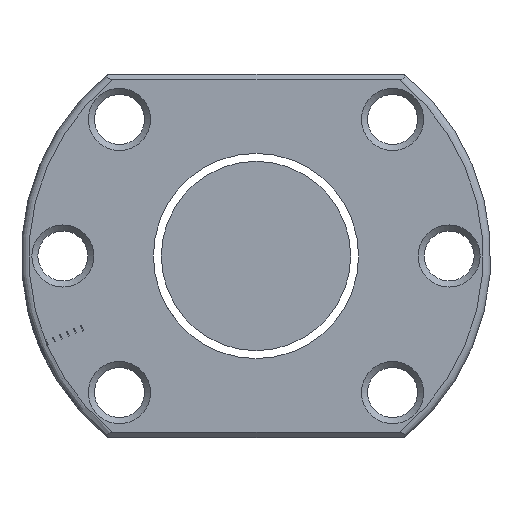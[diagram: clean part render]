
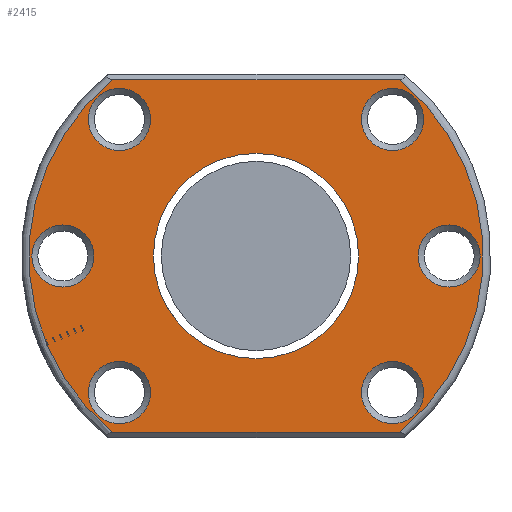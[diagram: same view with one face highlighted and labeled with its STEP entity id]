
A CAD part, left-side view. The second image highlights one B-rep face of the part: STEP entity #2415.
In plain terms, the highlighted planar face has unit normal (-1, 0, 0).
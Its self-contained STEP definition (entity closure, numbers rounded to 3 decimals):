
#40 = FACE_BOUND ( 'NONE', #677, .T. ) ;
#88 = AXIS2_PLACEMENT_3D ( 'NONE', #1712, #2687, #2938 ) ;
#121 = CARTESIAN_POINT ( 'NONE',  ( -51., -22.131, 18.031 ) ) ;
#135 = CARTESIAN_POINT ( 'NONE',  ( -51., 13.931, -18.031 ) ) ;
#208 = VERTEX_POINT ( 'NONE', #2408 ) ;
#215 = CARTESIAN_POINT ( 'NONE',  ( -51., 31., 0. ) ) ;
#232 = LINE ( 'NONE', #1650, #1246 ) ;
#241 = DIRECTION ( 'NONE',  ( 0., -1., 0. ) ) ;
#294 = CIRCLE ( 'NONE', #1444, 4.1 ) ;
#343 = CARTESIAN_POINT ( 'NONE',  ( -51., 25.5, 0. ) ) ;
#345 = VECTOR ( 'NONE', #2680, 1000. ) ;
#388 = ORIENTED_EDGE ( 'NONE', *, *, #749, .T. ) ;
#401 = CARTESIAN_POINT ( 'NONE',  ( -51., -18.031, 18.031 ) ) ;
#406 = EDGE_LOOP ( 'NONE', ( #1534 ) ) ;
#411 = CARTESIAN_POINT ( 'NONE',  ( -51., -22.131, -18.031 ) ) ;
#450 = VERTEX_POINT ( 'NONE', #1381 ) ;
#468 = VERTEX_POINT ( 'NONE', #700 ) ;
#510 = LINE ( 'NONE', #2444, #345 ) ;
#523 = ORIENTED_EDGE ( 'NONE', *, *, #2961, .T. ) ;
#535 = EDGE_CURVE ( 'NONE', #1097, #1097, #2613, .T. ) ;
#574 = CARTESIAN_POINT ( 'NONE',  ( -51., -25.5, 0. ) ) ;
#608 = VERTEX_POINT ( 'NONE', #1570 ) ;
#627 = DIRECTION ( 'NONE',  ( 1., 0., 0. ) ) ;
#632 = ORIENTED_EDGE ( 'NONE', *, *, #535, .T. ) ;
#633 = CIRCLE ( 'NONE', #2411, 4.1 ) ;
#677 = EDGE_LOOP ( 'NONE', ( #2348 ) ) ;
#679 = EDGE_LOOP ( 'NONE', ( #388 ) ) ;
#700 = CARTESIAN_POINT ( 'NONE',  ( -51., 13.55, 0. ) ) ;
#727 = ORIENTED_EDGE ( 'NONE', *, *, #1467, .T. ) ;
#749 = EDGE_CURVE ( 'NONE', #2305, #2305, #633, .T. ) ;
#781 = CARTESIAN_POINT ( 'NONE',  ( -51., 18.031, -18.031 ) ) ;
#806 = DIRECTION ( 'NONE',  ( 0., 1., 0. ) ) ;
#885 = CIRCLE ( 'NONE', #1957, 4.1 ) ;
#891 = CIRCLE ( 'NONE', #1451, 13.55 ) ;
#1017 = DIRECTION ( 'NONE',  ( 1., 0., 0. ) ) ;
#1045 = DIRECTION ( 'NONE',  ( 1., 0., 0. ) ) ;
#1074 = DIRECTION ( 'NONE',  ( 0., -1., 0. ) ) ;
#1088 = DIRECTION ( 'NONE',  ( 1., 0., 0. ) ) ;
#1093 = AXIS2_PLACEMENT_3D ( 'NONE', #343, #1563, #2016 ) ;
#1097 = VERTEX_POINT ( 'NONE', #1861 ) ;
#1107 = EDGE_LOOP ( 'NONE', ( #523 ) ) ;
#1151 = EDGE_LOOP ( 'NONE', ( #1243 ) ) ;
#1204 = FACE_BOUND ( 'NONE', #1151, .T. ) ;
#1219 = FACE_BOUND ( 'NONE', #1107, .T. ) ;
#1243 = ORIENTED_EDGE ( 'NONE', *, *, #2979, .T. ) ;
#1246 = VECTOR ( 'NONE', #2212, 1000. ) ;
#1251 = CARTESIAN_POINT ( 'NONE',  ( -51., -18.897, 23.3 ) ) ;
#1381 = CARTESIAN_POINT ( 'NONE',  ( -51., 18.897, 23.3 ) ) ;
#1399 = EDGE_CURVE ( 'NONE', #2353, #2353, #294, .T. ) ;
#1428 = FACE_BOUND ( 'NONE', #2108, .T. ) ;
#1434 = CARTESIAN_POINT ( 'NONE',  ( -51., -18.031, -18.031 ) ) ;
#1444 = AXIS2_PLACEMENT_3D ( 'NONE', #1434, #2409, #241 ) ;
#1448 = CIRCLE ( 'NONE', #88, 30. ) ;
#1451 = AXIS2_PLACEMENT_3D ( 'NONE', #1760, #1045, #806 ) ;
#1457 = VERTEX_POINT ( 'NONE', #2683 ) ;
#1467 = EDGE_CURVE ( 'NONE', #1887, #450, #510, .T. ) ;
#1480 = DIRECTION ( 'NONE',  ( -1., 0., 0. ) ) ;
#1503 = AXIS2_PLACEMENT_3D ( 'NONE', #574, #1088, #1806 ) ;
#1534 = ORIENTED_EDGE ( 'NONE', *, *, #3077, .T. ) ;
#1563 = DIRECTION ( 'NONE',  ( 1., 0., 0. ) ) ;
#1570 = CARTESIAN_POINT ( 'NONE',  ( -51., 21.4, 0. ) ) ;
#1634 = DIRECTION ( 'NONE',  ( 0., -1., 0. ) ) ;
#1650 = CARTESIAN_POINT ( 'NONE',  ( -51., -19.621, -23.3 ) ) ;
#1712 = CARTESIAN_POINT ( 'NONE',  ( -51., 0., 0. ) ) ;
#1723 = ORIENTED_EDGE ( 'NONE', *, *, #2881, .T. ) ;
#1756 = CIRCLE ( 'NONE', #1093, 4.1 ) ;
#1760 = CARTESIAN_POINT ( 'NONE',  ( -51., 0., 0. ) ) ;
#1806 = DIRECTION ( 'NONE',  ( 0., -1., 0. ) ) ;
#1821 = ORIENTED_EDGE ( 'NONE', *, *, #2443, .T. ) ;
#1822 = ORIENTED_EDGE ( 'NONE', *, *, #1399, .T. ) ;
#1861 = CARTESIAN_POINT ( 'NONE',  ( -51., 13.931, 18.031 ) ) ;
#1887 = VERTEX_POINT ( 'NONE', #1251 ) ;
#1942 = FACE_BOUND ( 'NONE', #2668, .T. ) ;
#1943 = DIRECTION ( 'NONE',  ( 0., -1., 0. ) ) ;
#1957 = AXIS2_PLACEMENT_3D ( 'NONE', #401, #627, #2273 ) ;
#2016 = DIRECTION ( 'NONE',  ( 0., -1., 0. ) ) ;
#2030 = DIRECTION ( 'NONE',  ( -1., 0., 0. ) ) ;
#2108 = EDGE_LOOP ( 'NONE', ( #632 ) ) ;
#2138 = ORIENTED_EDGE ( 'NONE', *, *, #3112, .T. ) ;
#2212 = DIRECTION ( 'NONE',  ( 0., -1., 0. ) ) ;
#2223 = EDGE_CURVE ( 'NONE', #3056, #3056, #885, .T. ) ;
#2272 = CARTESIAN_POINT ( 'NONE',  ( -51., 0., 0. ) ) ;
#2273 = DIRECTION ( 'NONE',  ( 0., -1., 0. ) ) ;
#2300 = EDGE_LOOP ( 'NONE', ( #1821, #1723, #727, #2138 ) ) ;
#2305 = VERTEX_POINT ( 'NONE', #135 ) ;
#2348 = ORIENTED_EDGE ( 'NONE', *, *, #2223, .T. ) ;
#2353 = VERTEX_POINT ( 'NONE', #411 ) ;
#2403 = FACE_OUTER_BOUND ( 'NONE', #2300, .T. ) ;
#2404 = DIRECTION ( 'NONE',  ( 1., 0., 0. ) ) ;
#2408 = CARTESIAN_POINT ( 'NONE',  ( -51., 18.897, -23.3 ) ) ;
#2409 = DIRECTION ( 'NONE',  ( 1., 0., 0. ) ) ;
#2411 = AXIS2_PLACEMENT_3D ( 'NONE', #781, #1017, #1943 ) ;
#2415 = ADVANCED_FACE ( 'NONE', ( #2627, #1942, #1204, #40, #1428, #1219, #2403, #2452 ), #2910, .T. ) ;
#2420 = VERTEX_POINT ( 'NONE', #3131 ) ;
#2443 = EDGE_CURVE ( 'NONE', #208, #1457, #232, .T. ) ;
#2444 = CARTESIAN_POINT ( 'NONE',  ( -51., 19.621, 23.3 ) ) ;
#2452 = FACE_BOUND ( 'NONE', #406, .T. ) ;
#2561 = AXIS2_PLACEMENT_3D ( 'NONE', #2581, #2404, #1634 ) ;
#2581 = CARTESIAN_POINT ( 'NONE',  ( -51., 18.031, 18.031 ) ) ;
#2613 = CIRCLE ( 'NONE', #2561, 4.1 ) ;
#2619 = AXIS2_PLACEMENT_3D ( 'NONE', #215, #1480, #2859 ) ;
#2627 = FACE_BOUND ( 'NONE', #679, .T. ) ;
#2668 = EDGE_LOOP ( 'NONE', ( #1822 ) ) ;
#2680 = DIRECTION ( 'NONE',  ( 0., 1., 0. ) ) ;
#2683 = CARTESIAN_POINT ( 'NONE',  ( -51., -18.897, -23.3 ) ) ;
#2687 = DIRECTION ( 'NONE',  ( -1., 0., 0. ) ) ;
#2824 = AXIS2_PLACEMENT_3D ( 'NONE', #2272, #2030, #1074 ) ;
#2859 = DIRECTION ( 'NONE',  ( 0., -1., 0. ) ) ;
#2869 = CIRCLE ( 'NONE', #1503, 4.1 ) ;
#2881 = EDGE_CURVE ( 'NONE', #1457, #1887, #1448, .T. ) ;
#2910 = PLANE ( 'NONE',  #2619 ) ;
#2927 = CIRCLE ( 'NONE', #2824, 30. ) ;
#2938 = DIRECTION ( 'NONE',  ( 0., -1., 0. ) ) ;
#2961 = EDGE_CURVE ( 'NONE', #608, #608, #1756, .T. ) ;
#2979 = EDGE_CURVE ( 'NONE', #2420, #2420, #2869, .T. ) ;
#3056 = VERTEX_POINT ( 'NONE', #121 ) ;
#3077 = EDGE_CURVE ( 'NONE', #468, #468, #891, .T. ) ;
#3112 = EDGE_CURVE ( 'NONE', #450, #208, #2927, .T. ) ;
#3131 = CARTESIAN_POINT ( 'NONE',  ( -51., -29.6, 0. ) ) ;
